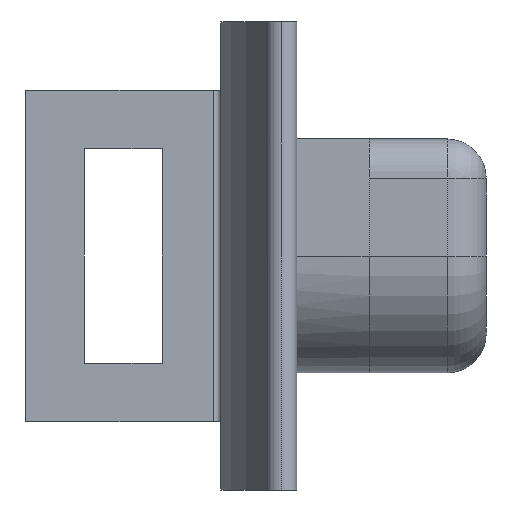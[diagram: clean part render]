
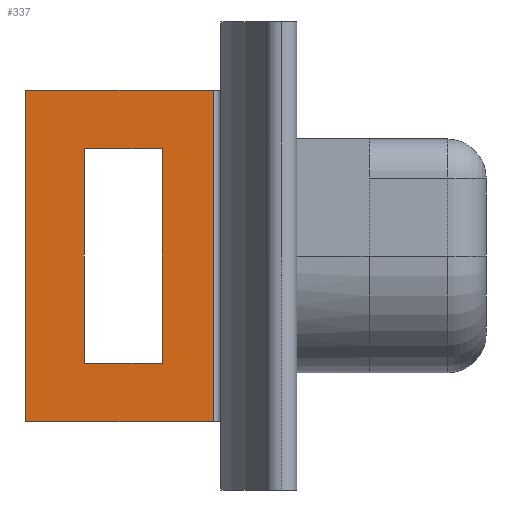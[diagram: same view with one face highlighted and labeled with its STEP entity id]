
A CAD part, left-side view. The second image highlights one B-rep face of the part: STEP entity #337.
In plain terms, the highlighted planar face has unit normal (-1, 0, 0).
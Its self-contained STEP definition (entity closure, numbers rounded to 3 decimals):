
#15 = DIRECTION ( 'NONE',  ( 0., 0., -1. ) ) ;
#37 = ORIENTED_EDGE ( 'NONE', *, *, #304, .F. ) ;
#38 = CARTESIAN_POINT ( 'NONE',  ( -4.25, -1.5, -2.75 ) ) ;
#61 = CARTESIAN_POINT ( 'NONE',  ( -4.25, 0., -4.25 ) ) ;
#123 = CARTESIAN_POINT ( 'NONE',  ( -4.25, 0., 4.25 ) ) ;
#174 = EDGE_CURVE ( 'NONE', #1424, #1678, #211, .T. ) ;
#205 = ORIENTED_EDGE ( 'NONE', *, *, #174, .T. ) ;
#211 = LINE ( 'NONE', #123, #1778 ) ;
#237 = CARTESIAN_POINT ( 'NONE',  ( -4.25, -3.5, 2.75 ) ) ;
#245 = DIRECTION ( 'NONE',  ( 0., -1., 0. ) ) ;
#273 = CARTESIAN_POINT ( 'NONE',  ( -4.25, -4.8, -4.25 ) ) ;
#284 = LINE ( 'NONE', #1709, #1811 ) ;
#304 = EDGE_CURVE ( 'NONE', #626, #825, #1110, .T. ) ;
#330 = ORIENTED_EDGE ( 'NONE', *, *, #638, .T. ) ;
#334 = FACE_BOUND ( 'NONE', #1496, .T. ) ;
#337 = ADVANCED_FACE ( 'NONE', ( #334, #1462 ), #1793, .F. ) ;
#351 = DIRECTION ( 'NONE',  ( 0., -1., 0. ) ) ;
#424 = DIRECTION ( 'NONE',  ( 0., 0., -1. ) ) ;
#443 = CARTESIAN_POINT ( 'NONE',  ( -4.25, -3.5, 2.75 ) ) ;
#485 = DIRECTION ( 'NONE',  ( 0., 1., 0. ) ) ;
#519 = ORIENTED_EDGE ( 'NONE', *, *, #1600, .F. ) ;
#616 = CARTESIAN_POINT ( 'NONE',  ( -4.25, -4.8, 4.25 ) ) ;
#626 = VERTEX_POINT ( 'NONE', #1414 ) ;
#630 = CARTESIAN_POINT ( 'NONE',  ( -4.25, 0., 4.25 ) ) ;
#637 = EDGE_LOOP ( 'NONE', ( #1803, #37, #519, #205 ) ) ;
#638 = EDGE_CURVE ( 'NONE', #1267, #1369, #891, .T. ) ;
#656 = VECTOR ( 'NONE', #351, 1000. ) ;
#667 = LINE ( 'NONE', #1373, #709 ) ;
#675 = LINE ( 'NONE', #1127, #1016 ) ;
#709 = VECTOR ( 'NONE', #485, 1000. ) ;
#715 = VECTOR ( 'NONE', #15, 1000. ) ;
#720 = DIRECTION ( 'NONE',  ( 1., 0., 0. ) ) ;
#753 = CARTESIAN_POINT ( 'NONE',  ( -4.25, -1.5, -2.75 ) ) ;
#762 = LINE ( 'NONE', #753, #1196 ) ;
#767 = CARTESIAN_POINT ( 'NONE',  ( -4.25, -3.5, -2.75 ) ) ;
#825 = VERTEX_POINT ( 'NONE', #273 ) ;
#889 = ORIENTED_EDGE ( 'NONE', *, *, #1756, .T. ) ;
#891 = LINE ( 'NONE', #237, #1249 ) ;
#962 = EDGE_CURVE ( 'NONE', #1563, #1185, #762, .T. ) ;
#1016 = VECTOR ( 'NONE', #245, 1000. ) ;
#1110 = LINE ( 'NONE', #1642, #715 ) ;
#1127 = CARTESIAN_POINT ( 'NONE',  ( -4.25, -1.5, 2.75 ) ) ;
#1185 = VERTEX_POINT ( 'NONE', #1305 ) ;
#1196 = VECTOR ( 'NONE', #1780, 1000. ) ;
#1216 = ORIENTED_EDGE ( 'NONE', *, *, #962, .T. ) ;
#1233 = CARTESIAN_POINT ( 'NONE',  ( -4.25, -4.8, 4.25 ) ) ;
#1249 = VECTOR ( 'NONE', #1265, 1000. ) ;
#1265 = DIRECTION ( 'NONE',  ( 0., 0., -1. ) ) ;
#1266 = DIRECTION ( 'NONE',  ( 0., -1., 0. ) ) ;
#1267 = VERTEX_POINT ( 'NONE', #443 ) ;
#1293 = AXIS2_PLACEMENT_3D ( 'NONE', #616, #720, #1751 ) ;
#1305 = CARTESIAN_POINT ( 'NONE',  ( -4.25, -1.5, 2.75 ) ) ;
#1324 = ORIENTED_EDGE ( 'NONE', *, *, #1432, .T. ) ;
#1369 = VERTEX_POINT ( 'NONE', #767 ) ;
#1373 = CARTESIAN_POINT ( 'NONE',  ( -4.25, -3.5, -2.75 ) ) ;
#1414 = CARTESIAN_POINT ( 'NONE',  ( -4.25, -4.8, 4.25 ) ) ;
#1424 = VERTEX_POINT ( 'NONE', #630 ) ;
#1432 = EDGE_CURVE ( 'NONE', #1369, #1563, #667, .T. ) ;
#1462 = FACE_OUTER_BOUND ( 'NONE', #637, .T. ) ;
#1496 = EDGE_LOOP ( 'NONE', ( #1216, #889, #330, #1324 ) ) ;
#1563 = VERTEX_POINT ( 'NONE', #38 ) ;
#1600 = EDGE_CURVE ( 'NONE', #1424, #626, #1836, .T. ) ;
#1642 = CARTESIAN_POINT ( 'NONE',  ( -4.25, -4.8, 4.25 ) ) ;
#1678 = VERTEX_POINT ( 'NONE', #61 ) ;
#1709 = CARTESIAN_POINT ( 'NONE',  ( -4.25, -4.8, -4.25 ) ) ;
#1722 = EDGE_CURVE ( 'NONE', #1678, #825, #284, .T. ) ;
#1751 = DIRECTION ( 'NONE',  ( 0., 0., -1. ) ) ;
#1756 = EDGE_CURVE ( 'NONE', #1185, #1267, #675, .T. ) ;
#1778 = VECTOR ( 'NONE', #424, 1000. ) ;
#1780 = DIRECTION ( 'NONE',  ( 0., 0., 1. ) ) ;
#1793 = PLANE ( 'NONE',  #1293 ) ;
#1803 = ORIENTED_EDGE ( 'NONE', *, *, #1722, .T. ) ;
#1811 = VECTOR ( 'NONE', #1266, 1000. ) ;
#1836 = LINE ( 'NONE', #1233, #656 ) ;
